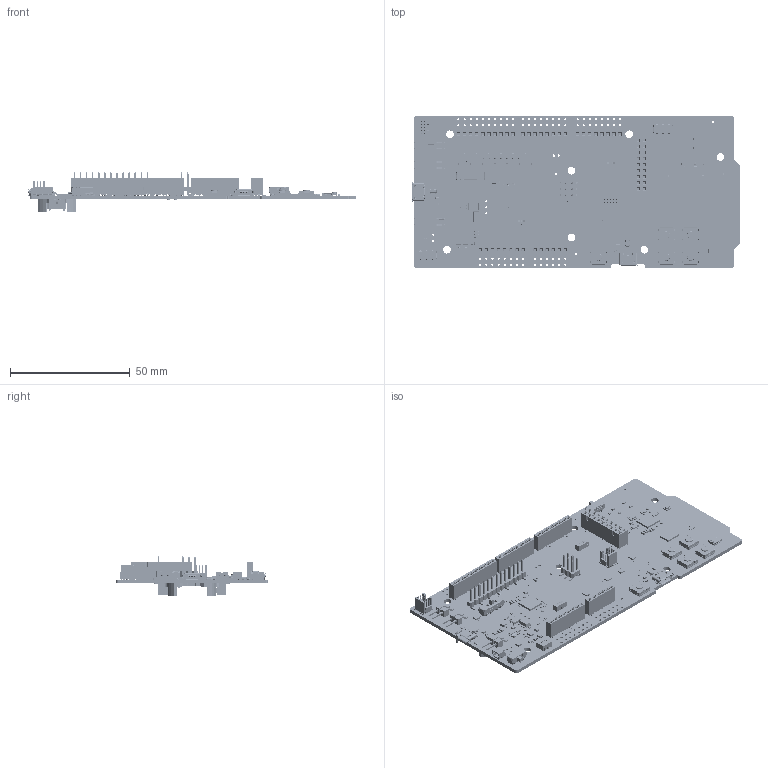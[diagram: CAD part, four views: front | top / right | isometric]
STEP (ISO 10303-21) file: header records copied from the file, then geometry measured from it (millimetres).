
FILE_DESCRIPTION(('Open CASCADE Model'),'2;1');
FILE_NAME('Open CASCADE Shape Model','2022-10-03T14:42:34',('Author'),( 'Open CASCADE'),'Open CASCADE STEP processor 7.5','Open CASCADE 7.5' ,'Unknown');
FILE_SCHEMA(('AUTOMOTIVE_DESIGN { 1 0 10303 214 1 1 1 1 }'));
Length unit declared in the file: millimetre
Products named in the file (411): PCB; Board; Open CASCADE STEP translator 7.5 1.1.1; C83; User Library-Chip Capacitor 0603; Q80; 6515110592; CenterLeader; Open CASCADE STEP translator 6.8 4.1.1; top; bottom; Body; Open CASCADE STEP translator 6.8 4.4.1; SW11; User Library-CJS-1200TA -Copal Electronics -SPDT Micro Slide Switch; R8; User Library-res0201-1; R6; R5; Q1; 6515116032; bigPin; smallPine; C53; User Library-0201(0603M) Cap; TP48; 6659067472; Extruded; TP49; TP50; TP51; LED5; User Library-led_0603_green; Q2; 6515116672; R7; R11; R12; R14; R15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
Assembly tree (832 placements, depth 5):
  PCB
    Board
      Open CASCADE STEP translator 7.5 1.1.1
    C83
      User Library-Chip Capacitor 0603
    Q80
      6515110592
        CenterLeader
          Open CASCADE STEP translator 6.8 4.1.1
        top
        bottom
        Body
          Open CASCADE STEP translator 6.8 4.4.1
    SW11
      User Library-CJS-1200TA -Copal Electronics -SPDT Micro Slide Switch
    R8
      User Library-res0201-1
    R6
      User Library-res0201-1
    R5
      User Library-res0201-1
    Q1
      6515116032
        Body
        bigPin
        smallPine  x2
    C53
      User Library-0201(0603M) Cap
    TP48
      6659067472
        Extruded
    TP49
      6659067472
        Extruded
    TP50
      6659067472
        Extruded
    TP51
      6659067472
        Extruded
    LED5
      User Library-led_0603_green
    Q2
      6515116672
        Body
        bigPin
        smallPine  x2
    R7
      User Library-res0201-1
    R11
      User Library-res0201-1
    R12
      User Library-res0201-1
    R14
      User Library-res0201-1
    R15
      User Library-res0201-1
    R16
      User Library-res0201-1
    R17
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Bounding box: 137.19 x 63.5 x 16.58 mm (x, y, z)
Volume: 17979.2 mm3; surface area: 30837.6 mm2
Topology: 687 solids, 697 shells, 21825 faces, 55201 edges, 34553 vertices
Faces by surface type: plane 14528, cylinder 3827, bspline 3046, sphere 344, torus 66, cone 14
Full cylindrical faces by diameter (mm): 0.099 x2, 0.2 x116, 0.231 x2, 0.25 x184, 0.256 x1, 0.263 x2, 0.4 x1, 0.562 x1, 0.6 x2, 0.762 x1, 0.8 x3, 0.887 x1, 0.9 x85, 0.99 x3, 1 x5, 1.78 x3, 1.8 x1, 2 x1, 2.05 x1, 2.1 x2, 3 x5, 3.15 x5, 3.2 x7
Entity records: 289759 total; most frequent: CARTESIAN_POINT 64843, ORIENTED_EDGE 38965, DIRECTION 36813, EDGE_CURVE 19487, LINE 15437, VECTOR 15437, VERTEX_POINT 12489, AXIS2_PLACEMENT_3D 10688
